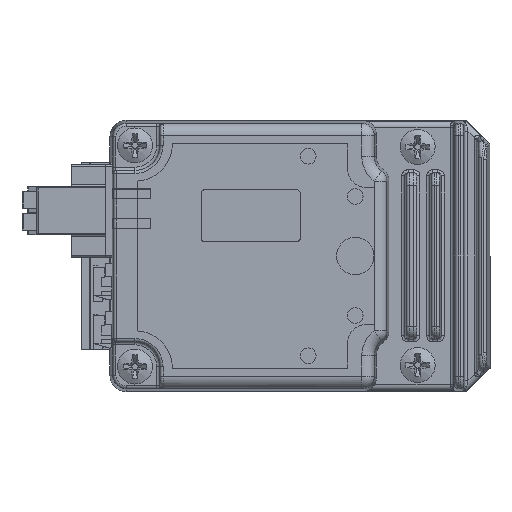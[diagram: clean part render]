
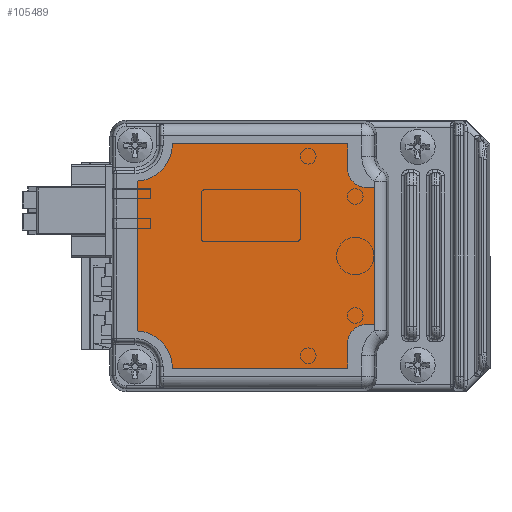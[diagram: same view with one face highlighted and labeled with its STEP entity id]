
A CAD part, left-side view. The second image highlights one B-rep face of the part: STEP entity #105489.
In plain terms, the highlighted planar face has unit normal (-1, 0, 0) as drawn and (0, 0, 1) by its records, which use the part's own axes.
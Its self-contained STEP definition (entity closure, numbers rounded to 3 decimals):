
#931 = AXIS2_PLACEMENT_3D ( 'NONE', #42122, #101678, #84919 ) ;
#1398 = EDGE_CURVE ( 'NONE', #25586, #74137, #79539, .T. ) ;
#1786 = VECTOR ( 'NONE', #21115, 1000. ) ;
#4413 = VECTOR ( 'NONE', #100793, 1000. ) ;
#5648 = DIRECTION ( 'NONE',  ( 0., 0., -1. ) ) ;
#6005 = ORIENTED_EDGE ( 'NONE', *, *, #61167, .F. ) ;
#7512 = CARTESIAN_POINT ( 'NONE',  ( -18., 19., 0.1 ) ) ;
#9604 = VECTOR ( 'NONE', #102251, 1000. ) ;
#11152 = VECTOR ( 'NONE', #32059, 1000. ) ;
#11172 = CARTESIAN_POINT ( 'NONE',  ( 12.013, -19., 0.1 ) ) ;
#11444 = EDGE_CURVE ( 'NONE', #30507, #72007, #73605, .T. ) ;
#13631 = ORIENTED_EDGE ( 'NONE', *, *, #104694, .F. ) ;
#13791 = DIRECTION ( 'NONE',  ( 1., 0., 0. ) ) ;
#14149 = DIRECTION ( 'NONE',  ( 1., 0., 0. ) ) ;
#14509 = CARTESIAN_POINT ( 'NONE',  ( -18., -19.4, 0.1 ) ) ;
#14614 = LINE ( 'NONE', #106490, #19937 ) ;
#15510 = DIRECTION ( 'NONE',  ( 0., 0., 1. ) ) ;
#16290 = CARTESIAN_POINT ( 'NONE',  ( 18., 14.7, 0.1 ) ) ;
#16549 = CIRCLE ( 'NONE', #43935, 3. ) ;
#19344 = DIRECTION ( 'NONE',  ( 0., 1., 0. ) ) ;
#19671 = VECTOR ( 'NONE', #51591, 1000. ) ;
#19937 = VECTOR ( 'NONE', #55045, 1000. ) ;
#20068 = CARTESIAN_POINT ( 'NONE',  ( 18., 19., 0.1 ) ) ;
#20179 = CARTESIAN_POINT ( 'NONE',  ( 18., -13.4, 0.1 ) ) ;
#21115 = DIRECTION ( 'NONE',  ( 1., 0., 0. ) ) ;
#21959 = VERTEX_POINT ( 'NONE', #69761 ) ;
#25586 = VERTEX_POINT ( 'NONE', #35872 ) ;
#27053 = CARTESIAN_POINT ( 'NONE',  ( -18., 19., 0.1 ) ) ;
#29385 = LINE ( 'NONE', #20068, #108006 ) ;
#30507 = VERTEX_POINT ( 'NONE', #109334 ) ;
#32059 = DIRECTION ( 'NONE',  ( -1., 0., 0. ) ) ;
#33036 = ORIENTED_EDGE ( 'NONE', *, *, #35377, .T. ) ;
#34247 = CARTESIAN_POINT ( 'NONE',  ( -18., -13.4, 0.1 ) ) ;
#34442 = CARTESIAN_POINT ( 'NONE',  ( -11., 17.7, 0.1 ) ) ;
#35377 = EDGE_CURVE ( 'NONE', #21959, #72007, #84974, .T. ) ;
#35872 = CARTESIAN_POINT ( 'NONE',  ( -18., 14.7, 0.1 ) ) ;
#35937 = CARTESIAN_POINT ( 'NONE',  ( -14., 17.7, 0.1 ) ) ;
#36197 = ORIENTED_EDGE ( 'NONE', *, *, #63265, .T. ) ;
#38295 = FACE_OUTER_BOUND ( 'NONE', #84257, .T. ) ;
#39316 = ORIENTED_EDGE ( 'NONE', *, *, #11444, .F. ) ;
#41225 = ORIENTED_EDGE ( 'NONE', *, *, #59492, .F. ) ;
#41519 = LINE ( 'NONE', #16290, #9604 ) ;
#41614 = ORIENTED_EDGE ( 'NONE', *, *, #43207, .T. ) ;
#42122 = CARTESIAN_POINT ( 'NONE',  ( 0., 0., 0.1 ) ) ;
#42867 = PLANE ( 'NONE',  #931 ) ;
#42951 = AXIS2_PLACEMENT_3D ( 'NONE', #73698, #5648, #13791 ) ;
#43207 = EDGE_CURVE ( 'NONE', #97630, #106069, #16549, .T. ) ;
#43761 = DIRECTION ( 'NONE',  ( 1., 0., 0. ) ) ;
#43935 = AXIS2_PLACEMENT_3D ( 'NONE', #35937, #104041, #43761 ) ;
#46749 = CARTESIAN_POINT ( 'NONE',  ( -18., -19., 0.1 ) ) ;
#47390 = ORIENTED_EDGE ( 'NONE', *, *, #57207, .T. ) ;
#47942 = ORIENTED_EDGE ( 'NONE', *, *, #52644, .F. ) ;
#47986 = VECTOR ( 'NONE', #54778, 1000. ) ;
#48567 = ORIENTED_EDGE ( 'NONE', *, *, #1398, .T. ) ;
#50382 = CARTESIAN_POINT ( 'NONE',  ( 18., 14.7, 0.1 ) ) ;
#51591 = DIRECTION ( 'NONE',  ( 0., -1., 0. ) ) ;
#52644 = EDGE_CURVE ( 'NONE', #25586, #106069, #101279, .T. ) ;
#54778 = DIRECTION ( 'NONE',  ( 1., 0., 0. ) ) ;
#55045 = DIRECTION ( 'NONE',  ( 0., 1., 0. ) ) ;
#57207 = EDGE_CURVE ( 'NONE', #76677, #58483, #29385, .T. ) ;
#57974 = ORIENTED_EDGE ( 'NONE', *, *, #80043, .F. ) ;
#58483 = VERTEX_POINT ( 'NONE', #50382 ) ;
#59492 = EDGE_CURVE ( 'NONE', #98734, #74137, #91930, .T. ) ;
#61167 = EDGE_CURVE ( 'NONE', #76677, #68129, #81926, .T. ) ;
#61436 = ORIENTED_EDGE ( 'NONE', *, *, #103695, .T. ) ;
#63125 = CARTESIAN_POINT ( 'NONE',  ( -12.013, -19., 0.1 ) ) ;
#63265 = EDGE_CURVE ( 'NONE', #30507, #70685, #88338, .T. ) ;
#65847 = DIRECTION ( 'NONE',  ( 0., 0., 1. ) ) ;
#68129 = VERTEX_POINT ( 'NONE', #11172 ) ;
#69761 = CARTESIAN_POINT ( 'NONE',  ( 14., 14.7, 0.1 ) ) ;
#70685 = VERTEX_POINT ( 'NONE', #96162 ) ;
#70983 = LINE ( 'NONE', #46749, #1786 ) ;
#71630 = CARTESIAN_POINT ( 'NONE',  ( -18., 14.7, 0.1 ) ) ;
#72007 = VERTEX_POINT ( 'NONE', #92440 ) ;
#73605 = LINE ( 'NONE', #80743, #4413 ) ;
#73698 = CARTESIAN_POINT ( 'NONE',  ( 14., 17.7, 0.1 ) ) ;
#74137 = VERTEX_POINT ( 'NONE', #34247 ) ;
#76677 = VERTEX_POINT ( 'NONE', #20179 ) ;
#79539 = LINE ( 'NONE', #27053, #19671 ) ;
#80043 = EDGE_CURVE ( 'NONE', #21959, #58483, #41519, .T. ) ;
#80743 = CARTESIAN_POINT ( 'NONE',  ( 11., 19., 0.1 ) ) ;
#81926 = CIRCLE ( 'NONE', #105796, 6. ) ;
#84257 = EDGE_LOOP ( 'NONE', ( #6005, #47390, #57974, #33036, #39316, #36197, #13631, #41614, #47942, #48567, #41225, #61436 ) ) ;
#84919 = DIRECTION ( 'NONE',  ( 1., 0., 0. ) ) ;
#84974 = CIRCLE ( 'NONE', #42951, 3. ) ;
#88338 = LINE ( 'NONE', #7512, #11152 ) ;
#91786 = CARTESIAN_POINT ( 'NONE',  ( 18., -19.4, 0.1 ) ) ;
#91930 = CIRCLE ( 'NONE', #94214, 6. ) ;
#92440 = CARTESIAN_POINT ( 'NONE',  ( 11., 17.7, 0.1 ) ) ;
#94214 = AXIS2_PLACEMENT_3D ( 'NONE', #14509, #65847, #14149 ) ;
#96162 = CARTESIAN_POINT ( 'NONE',  ( -11., 19., 0.1 ) ) ;
#97630 = VERTEX_POINT ( 'NONE', #34442 ) ;
#98734 = VERTEX_POINT ( 'NONE', #63125 ) ;
#100793 = DIRECTION ( 'NONE',  ( 0., -1., 0. ) ) ;
#101279 = LINE ( 'NONE', #71630, #47986 ) ;
#101678 = DIRECTION ( 'NONE',  ( 0., 0., 1. ) ) ;
#102251 = DIRECTION ( 'NONE',  ( 1., 0., 0. ) ) ;
#103010 = CARTESIAN_POINT ( 'NONE',  ( -14., 14.7, 0.1 ) ) ;
#103695 = EDGE_CURVE ( 'NONE', #98734, #68129, #70983, .T. ) ;
#104041 = DIRECTION ( 'NONE',  ( 0., 0., -1. ) ) ;
#104694 = EDGE_CURVE ( 'NONE', #97630, #70685, #14614, .T. ) ;
#105489 = ADVANCED_FACE ( 'NONE', ( #38295 ), #42867, .T. ) ;
#105796 = AXIS2_PLACEMENT_3D ( 'NONE', #91786, #15510, #108928 ) ;
#106069 = VERTEX_POINT ( 'NONE', #103010 ) ;
#106490 = CARTESIAN_POINT ( 'NONE',  ( -11., 19., 0.1 ) ) ;
#108006 = VECTOR ( 'NONE', #19344, 1000. ) ;
#108928 = DIRECTION ( 'NONE',  ( 1., 0., 0. ) ) ;
#109334 = CARTESIAN_POINT ( 'NONE',  ( 11., 19., 0.1 ) ) ;
